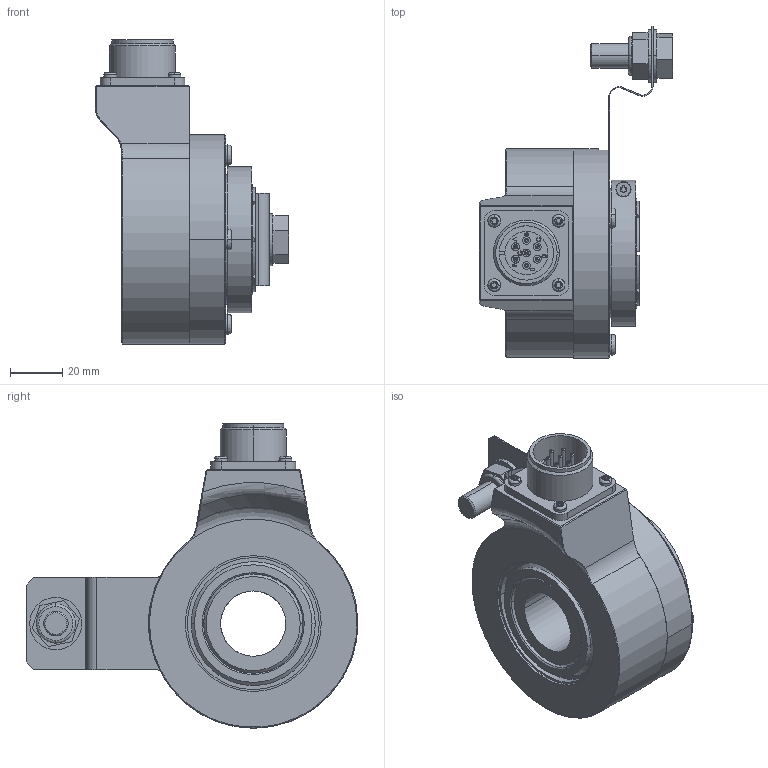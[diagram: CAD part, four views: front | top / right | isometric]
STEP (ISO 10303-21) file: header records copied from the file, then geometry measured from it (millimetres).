
FILE_DESCRIPTION (( 'STEP AP203' ), '1' );
FILE_NAME ('K80I.OXX.XXXXX.XH24825.6XRCD.step', '2025-12-09T10:33:12', ( '' ), ( '' ), 'SwSTEP 2.0', 'SolidWorks 2021', '' );
FILE_SCHEMA (( 'CONFIG_CONTROL_DESIGN' ));
Length unit declared in the file: millimetre
Products named in the file (1): K80I.OXX.XXXXX.XH24825.6XRCD
Bounding box: 73.95 x 127.03 x 116.58 mm (x, y, z)
Volume: 235161 mm3; surface area: 85970.1 mm2
Topology: 8 solids, 10 shells, 756 faces, 1934 edges, 1253 vertices
Faces by surface type: cylinder 342, plane 289, bspline 56, cone 41, torus 28
Entity records: 28176 total; most frequent: CARTESIAN_POINT 9551, DIRECTION 3928, ORIENTED_EDGE 3852, EDGE_CURVE 1926, AXIS2_PLACEMENT_3D 1497, VERTEX_POINT 1253, LINE 934, VECTOR 934
